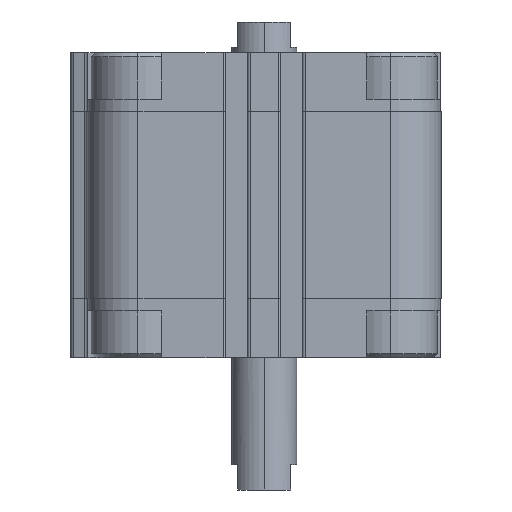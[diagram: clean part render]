
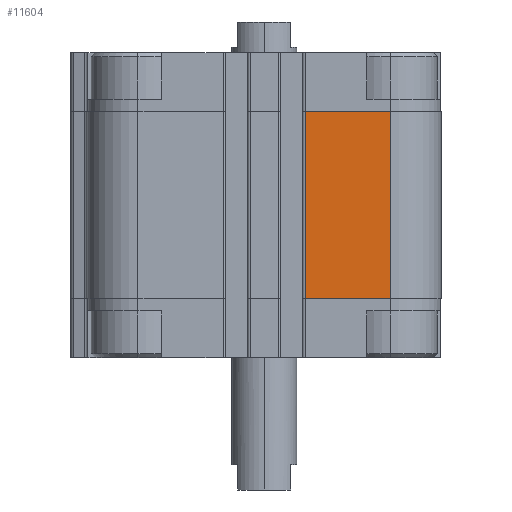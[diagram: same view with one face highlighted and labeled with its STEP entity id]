
A CAD part, left-side view. The second image highlights one B-rep face of the part: STEP entity #11604.
In plain terms, the highlighted planar face has unit normal (-1, 0, 0).
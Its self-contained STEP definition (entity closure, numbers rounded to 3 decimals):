
#612 = LINE ( 'NONE', #2011, #1011 ) ;
#1011 = VECTOR ( 'NONE', #9555, 1000. ) ;
#1572 = LINE ( 'NONE', #10611, #19400 ) ;
#2011 = CARTESIAN_POINT ( 'NONE',  ( -43.5, -31., -60.5 ) ) ;
#2763 = LINE ( 'NONE', #17932, #16768 ) ;
#2962 = ORIENTED_EDGE ( 'NONE', *, *, #11948, .T. ) ;
#3154 = VERTEX_POINT ( 'NONE', #16279 ) ;
#3566 = CARTESIAN_POINT ( 'NONE',  ( -43.5, -31., -60.5 ) ) ;
#4203 = EDGE_CURVE ( 'NONE', #17327, #6316, #612, .T. ) ;
#4503 = CARTESIAN_POINT ( 'NONE',  ( -43.5, -10.05, -14.5 ) ) ;
#4676 = PLANE ( 'NONE',  #19378 ) ;
#6316 = VERTEX_POINT ( 'NONE', #10520 ) ;
#7563 = DIRECTION ( 'NONE',  ( -1., 0., 0. ) ) ;
#8341 = ORIENTED_EDGE ( 'NONE', *, *, #9066, .F. ) ;
#8837 = ORIENTED_EDGE ( 'NONE', *, *, #17677, .F. ) ;
#8953 = DIRECTION ( 'NONE',  ( 0., -1., 0. ) ) ;
#9066 = EDGE_CURVE ( 'NONE', #3154, #16965, #1572, .T. ) ;
#9555 = DIRECTION ( 'NONE',  ( 0., 0., 1. ) ) ;
#10520 = CARTESIAN_POINT ( 'NONE',  ( -43.5, -31., -14.5 ) ) ;
#10611 = CARTESIAN_POINT ( 'NONE',  ( -43.5, -10.05, -60.5 ) ) ;
#11604 = ADVANCED_FACE ( 'NONE', ( #12240 ), #4676, .T. ) ;
#11948 = EDGE_CURVE ( 'NONE', #3154, #17327, #14774, .T. ) ;
#12240 = FACE_OUTER_BOUND ( 'NONE', #15627, .T. ) ;
#13976 = DIRECTION ( 'NONE',  ( 0., 0., 1. ) ) ;
#14774 = LINE ( 'NONE', #14953, #16869 ) ;
#14953 = CARTESIAN_POINT ( 'NONE',  ( -43.5, -10.05, -60.5 ) ) ;
#15097 = CARTESIAN_POINT ( 'NONE',  ( -43.5, -10.05, -60.5 ) ) ;
#15627 = EDGE_LOOP ( 'NONE', ( #8837, #8341, #2962, #17502 ) ) ;
#16279 = CARTESIAN_POINT ( 'NONE',  ( -43.5, -10.05, -60.5 ) ) ;
#16535 = DIRECTION ( 'NONE',  ( 0., -1., 0. ) ) ;
#16768 = VECTOR ( 'NONE', #16535, 1000. ) ;
#16869 = VECTOR ( 'NONE', #19306, 1000. ) ;
#16965 = VERTEX_POINT ( 'NONE', #4503 ) ;
#17327 = VERTEX_POINT ( 'NONE', #3566 ) ;
#17502 = ORIENTED_EDGE ( 'NONE', *, *, #4203, .T. ) ;
#17677 = EDGE_CURVE ( 'NONE', #16965, #6316, #2763, .T. ) ;
#17932 = CARTESIAN_POINT ( 'NONE',  ( -43.5, -10.05, -14.5 ) ) ;
#19306 = DIRECTION ( 'NONE',  ( 0., -1., 0. ) ) ;
#19378 = AXIS2_PLACEMENT_3D ( 'NONE', #15097, #7563, #8953 ) ;
#19400 = VECTOR ( 'NONE', #13976, 1000. ) ;
